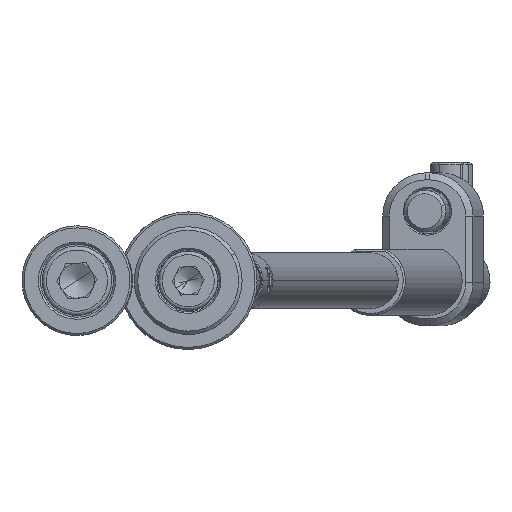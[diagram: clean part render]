
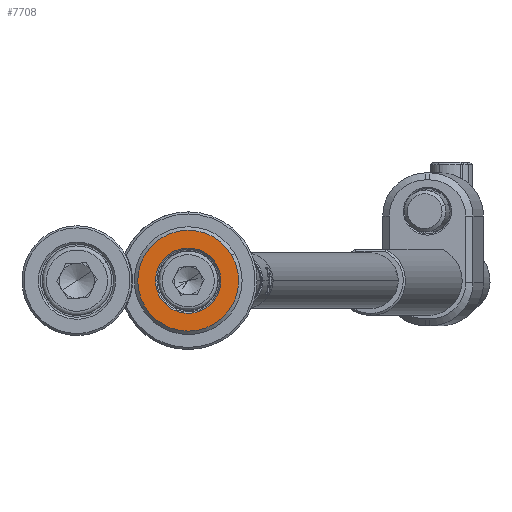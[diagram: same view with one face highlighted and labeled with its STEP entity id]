
A CAD part, front view. The second image highlights one B-rep face of the part: STEP entity #7708.
In plain terms, the highlighted planar face has unit normal (0, -1, 0).
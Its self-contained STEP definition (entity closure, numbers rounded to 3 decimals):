
#134 = DIRECTION ( 'NONE',  ( -0.865, 0., -0.503 ) ) ;
#189 = CIRCLE ( 'NONE', #8214, 7.25 ) ;
#225 = CARTESIAN_POINT ( 'NONE',  ( 0., -4., 0. ) ) ;
#573 = ORIENTED_EDGE ( 'NONE', *, *, #5835, .T. ) ;
#609 = EDGE_CURVE ( 'NONE', #10038, #10855, #189, .T. ) ;
#789 = FACE_OUTER_BOUND ( 'NONE', #4690, .T. ) ;
#1622 = ORIENTED_EDGE ( 'NONE', *, *, #10242, .T. ) ;
#1767 = CIRCLE ( 'NONE', #4788, 4.7 ) ;
#2097 = CARTESIAN_POINT ( 'NONE',  ( 6.268, -4., 3.643 ) ) ;
#2120 = ORIENTED_EDGE ( 'NONE', *, *, #7849, .T. ) ;
#3257 = VERTEX_POINT ( 'NONE', #3468 ) ;
#3468 = CARTESIAN_POINT ( 'NONE',  ( 4.063, -4., 2.362 ) ) ;
#4690 = EDGE_LOOP ( 'NONE', ( #13007, #573 ) ) ;
#4768 = AXIS2_PLACEMENT_3D ( 'NONE', #225, #5733, #5931 ) ;
#4788 = AXIS2_PLACEMENT_3D ( 'NONE', #8769, #7782, #134 ) ;
#5061 = PLANE ( 'NONE',  #8204 ) ;
#5209 = DIRECTION ( 'NONE',  ( 0., -1., 0. ) ) ;
#5437 = CARTESIAN_POINT ( 'NONE',  ( -4.063, -4., -2.362 ) ) ;
#5733 = DIRECTION ( 'NONE',  ( 0., -1., 0. ) ) ;
#5835 = EDGE_CURVE ( 'NONE', #10855, #10038, #6824, .T. ) ;
#5931 = DIRECTION ( 'NONE',  ( -0.865, 0., -0.503 ) ) ;
#6246 = DIRECTION ( 'NONE',  ( -0.865, 0., -0.503 ) ) ;
#6824 = CIRCLE ( 'NONE', #4768, 7.25 ) ;
#7200 = DIRECTION ( 'NONE',  ( 0., 1., 0. ) ) ;
#7393 = CARTESIAN_POINT ( 'NONE',  ( 0., -4., 0. ) ) ;
#7484 = CARTESIAN_POINT ( 'NONE',  ( 0., -4., 0. ) ) ;
#7708 = ADVANCED_FACE ( 'NONE', ( #10625, #789 ), #5061, .F. ) ;
#7782 = DIRECTION ( 'NONE',  ( 0., 1., 0. ) ) ;
#7849 = EDGE_CURVE ( 'NONE', #10766, #3257, #1767, .T. ) ;
#8204 = AXIS2_PLACEMENT_3D ( 'NONE', #10714, #7200, #11653 ) ;
#8214 = AXIS2_PLACEMENT_3D ( 'NONE', #7484, #5209, #9551 ) ;
#8769 = CARTESIAN_POINT ( 'NONE',  ( 0., -4., 0. ) ) ;
#9551 = DIRECTION ( 'NONE',  ( -0.865, 0., -0.503 ) ) ;
#10038 = VERTEX_POINT ( 'NONE', #13828 ) ;
#10242 = EDGE_CURVE ( 'NONE', #3257, #10766, #12402, .T. ) ;
#10625 = FACE_BOUND ( 'NONE', #10740, .T. ) ;
#10714 = CARTESIAN_POINT ( 'NONE',  ( 2.261, -4., -3.891 ) ) ;
#10740 = EDGE_LOOP ( 'NONE', ( #1622, #2120 ) ) ;
#10766 = VERTEX_POINT ( 'NONE', #5437 ) ;
#10855 = VERTEX_POINT ( 'NONE', #2097 ) ;
#11010 = AXIS2_PLACEMENT_3D ( 'NONE', #7393, #13972, #6246 ) ;
#11653 = DIRECTION ( 'NONE',  ( -0.865, 0., -0.503 ) ) ;
#12402 = CIRCLE ( 'NONE', #11010, 4.7 ) ;
#13007 = ORIENTED_EDGE ( 'NONE', *, *, #609, .T. ) ;
#13828 = CARTESIAN_POINT ( 'NONE',  ( -6.268, -4., -3.643 ) ) ;
#13972 = DIRECTION ( 'NONE',  ( 0., 1., 0. ) ) ;
